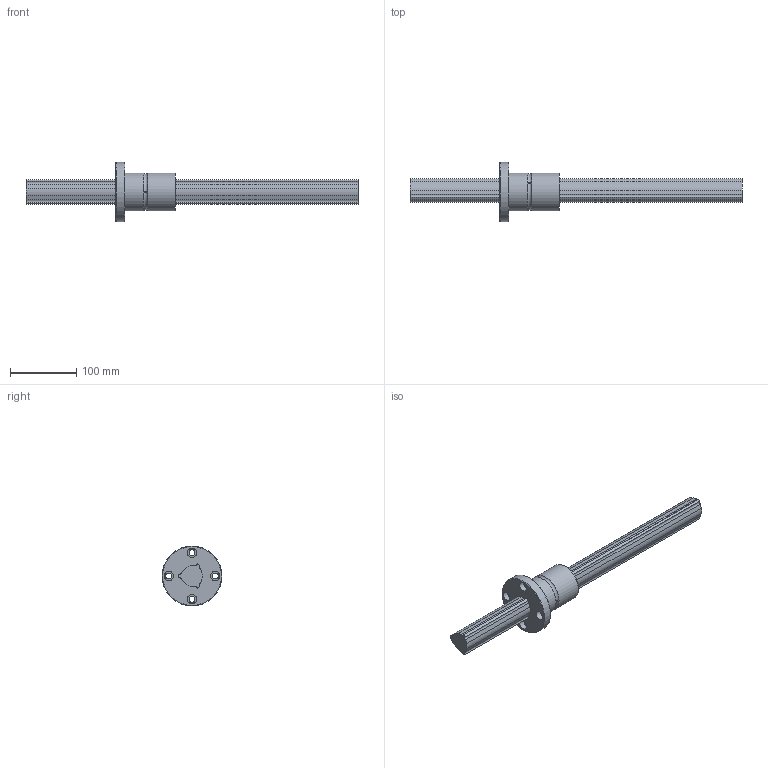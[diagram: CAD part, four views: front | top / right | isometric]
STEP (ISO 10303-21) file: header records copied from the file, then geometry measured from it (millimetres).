
FILE_DESCRIPTION(/* description */ ('STEP AP214'),/* implementation_level */ '2;1');
FILE_NAME(/* name */ 'LBF40+500L(5001350)',/* time_stamp */ '2024-09-04T13:01:49+02:00',/* author */ ('License CC BY-ND 4.0'),/* organization */ ('CADENAS'),/* preprocessor_version */ 'ST-DEVELOPER v19.3',/* originating_system */ 'PARTsolutions',/* authorisation */ ' ');
FILE_SCHEMA (('AUTOMOTIVE_DESIGN {1 0 10303 214 3 1 1}'));
Length unit declared in the file: millimetre
Products named in the file (3): LBF40+500L(5001350); LBF401500 Spline Shaft; LBF40 Nut
Assembly tree (2 placements, depth 2):
  LBF40+500L(5001350)
    LBF401500 Spline Shaft
    LBF40 Nut
Bounding box: 500 x 90 x 90 mm (x, y, z)
Volume: 625705 mm3; surface area: 100300.3 mm2
Topology: 2 solids, 2 shells, 66 faces, 165 edges, 111 vertices
Faces by surface type: cylinder 38, plane 24, torus 2, cone 2
Full cylindrical faces by diameter (mm): 3 x3, 9 x4, 14 x4, 57 x2, 90 x1
Entity records: 1967 total; most frequent: DIRECTION 350, CARTESIAN_POINT 342, ORIENTED_EDGE 278, AXIS2_PLACEMENT_3D 145, EDGE_CURVE 139, VERTEX_POINT 103, EDGE_LOOP 102, FACE_BOUND 102
